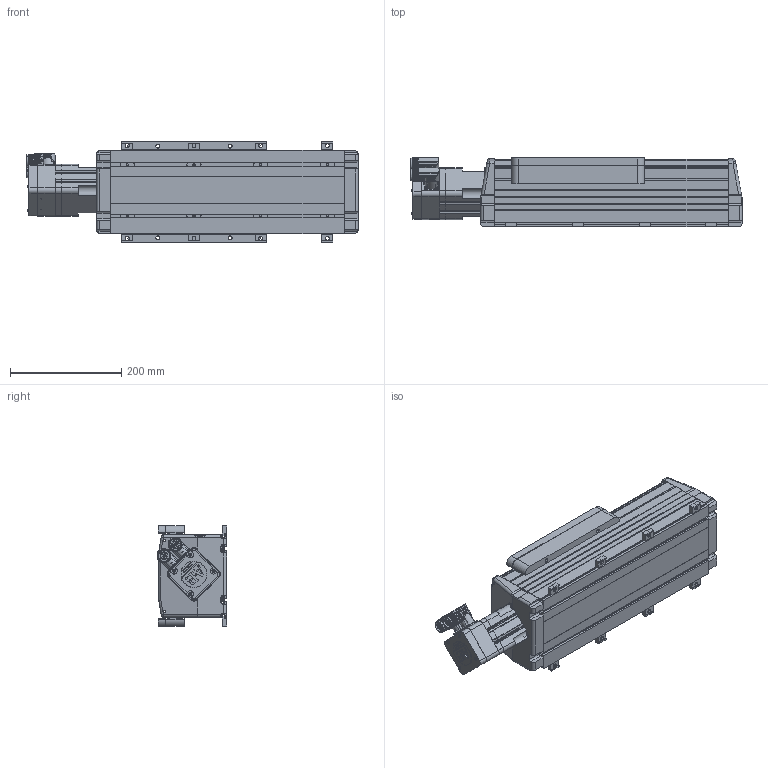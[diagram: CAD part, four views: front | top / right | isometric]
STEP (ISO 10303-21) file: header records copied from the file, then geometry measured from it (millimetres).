
FILE_DESCRIPTION((''),'2;1');
FILE_NAME('MPAS-B60122-V20S2A_ASM','2007-08-01T',('Sankarganesh'),(''),'PRO/ENGINEER BY PARAMETRIC TECHNOLOGY CORPORATION, 2006200','PRO/ENGINEER BY PARAMETRIC TECHNOLOGY CORPORATION, 2006200','');
FILE_SCHEMA(('CONFIG_CONTROL_DESIGN'));
Length unit declared in the file: millimetre
Products named in the file (12): PART-1_150_B_470; PART-2_150_B; PART-3_150_B; PART-4_150_B; PART-5_150_B_470; PART-6_150_B; PART-7_150_B; MPL-220-HSNG42AA; MPL-200-CONN-SIGNAL; MPL-200-CONN-POWER; MPLS-X220H-VJ42AA_ASM; MPAS-B60122-V20S2A_ASM
Assembly tree (25 placements, depth 3):
  MPAS-B60122-V20S2A_ASM
    PART-1_150_B_470
    PART-2_150_B
    PART-3_150_B
    PART-4_150_B
    PART-5_150_B_470
    PART-6_150_B  x8
    PART-7_150_B  x8
    MPLS-X220H-VJ42AA_ASM
      MPL-220-HSNG42AA
      MPL-200-CONN-SIGNAL
      MPL-200-CONN-POWER
Bounding box: 597.05 x 125.52 x 181.5 mm (x, y, z)
Volume: 5162004.5 mm3; surface area: 1082018.8 mm2
Topology: 23 solids, 39 shells, 2433 faces, 6680 edges, 4397 vertices
Faces by surface type: cylinder 1063, plane 951, torus 204, cone 166, bspline 33, sphere 16
Entity records: 79993 total; most frequent: CARTESIAN_POINT 20949, DIRECTION 12449, ORIENTED_EDGE 12420, EDGE_CURVE 6210, AXIS2_PLACEMENT_3D 4652, VERTEX_POINT 4117, VECTOR 3145, LINE 3145
